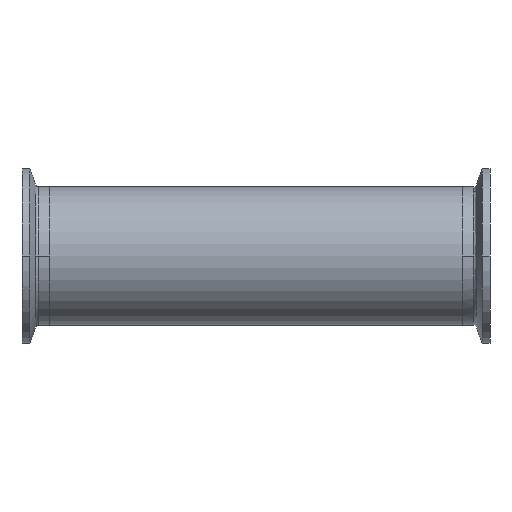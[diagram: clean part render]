
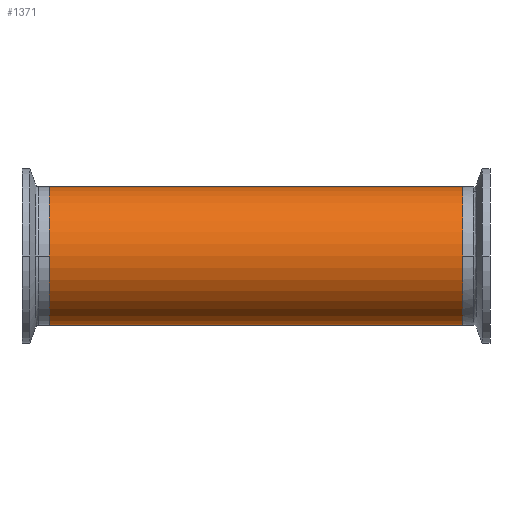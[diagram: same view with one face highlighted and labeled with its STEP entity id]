
A CAD part, front view. The second image highlights one B-rep face of the part: STEP entity #1371.
In plain terms, the highlighted cylindrical face has radius 25.4 mm (diameter 50.8 mm), a partial arc.
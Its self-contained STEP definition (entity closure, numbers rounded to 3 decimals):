
#173 = LINE ( 'NONE', #2235, #4034 ) ;
#187 = VERTEX_POINT ( 'NONE', #2556 ) ;
#228 = CIRCLE ( 'NONE', #3640, 25.4 ) ;
#242 = ORIENTED_EDGE ( 'NONE', *, *, #3683, .F. ) ;
#297 = VERTEX_POINT ( 'NONE', #2084 ) ;
#632 = CIRCLE ( 'NONE', #3679, 25.4 ) ;
#945 = FACE_OUTER_BOUND ( 'NONE', #2282, .T. ) ;
#989 = AXIS2_PLACEMENT_3D ( 'NONE', #1261, #1279, #1345 ) ;
#1035 = CARTESIAN_POINT ( 'NONE',  ( -75.7, 0., 0. ) ) ;
#1261 = CARTESIAN_POINT ( 'NONE',  ( 147.542, 0., 0. ) ) ;
#1279 = DIRECTION ( 'NONE',  ( -1., 0., 0. ) ) ;
#1345 = DIRECTION ( 'NONE',  ( 0., 0., 1. ) ) ;
#1357 = DIRECTION ( 'NONE',  ( 0., 0., 1. ) ) ;
#1371 = ADVANCED_FACE ( 'NONE', ( #945 ), #1593, .T. ) ;
#1388 = VERTEX_POINT ( 'NONE', #3497 ) ;
#1411 = LINE ( 'NONE', #3678, #3857 ) ;
#1438 = EDGE_CURVE ( 'NONE', #1664, #187, #173, .T. ) ;
#1446 = EDGE_CURVE ( 'NONE', #1388, #1664, #632, .T. ) ;
#1593 = CYLINDRICAL_SURFACE ( 'NONE', #989, 25.4 ) ;
#1664 = VERTEX_POINT ( 'NONE', #3192 ) ;
#1748 = DIRECTION ( 'NONE',  ( -1., 0., 0. ) ) ;
#1958 = ORIENTED_EDGE ( 'NONE', *, *, #1438, .T. ) ;
#2084 = CARTESIAN_POINT ( 'NONE',  ( -75.7, 0., -25.4 ) ) ;
#2235 = CARTESIAN_POINT ( 'NONE',  ( 147.542, 0., 25.4 ) ) ;
#2282 = EDGE_LOOP ( 'NONE', ( #242, #3094, #1958, #3259 ) ) ;
#2284 = DIRECTION ( 'NONE',  ( 0., 0., 1. ) ) ;
#2309 = CARTESIAN_POINT ( 'NONE',  ( 75.7, 0., 0. ) ) ;
#2545 = DIRECTION ( 'NONE',  ( -1., 0., 0. ) ) ;
#2556 = CARTESIAN_POINT ( 'NONE',  ( -75.7, 0., 25.4 ) ) ;
#2859 = DIRECTION ( 'NONE',  ( -1., 0., 0. ) ) ;
#3094 = ORIENTED_EDGE ( 'NONE', *, *, #1446, .T. ) ;
#3192 = CARTESIAN_POINT ( 'NONE',  ( 75.7, 0., 25.4 ) ) ;
#3259 = ORIENTED_EDGE ( 'NONE', *, *, #3886, .T. ) ;
#3300 = DIRECTION ( 'NONE',  ( 1., 0., 0. ) ) ;
#3497 = CARTESIAN_POINT ( 'NONE',  ( 75.7, 0., -25.4 ) ) ;
#3640 = AXIS2_PLACEMENT_3D ( 'NONE', #1035, #3300, #1357 ) ;
#3678 = CARTESIAN_POINT ( 'NONE',  ( 147.542, 0., -25.4 ) ) ;
#3679 = AXIS2_PLACEMENT_3D ( 'NONE', #2309, #2859, #2284 ) ;
#3683 = EDGE_CURVE ( 'NONE', #1388, #297, #1411, .T. ) ;
#3857 = VECTOR ( 'NONE', #1748, 1000. ) ;
#3886 = EDGE_CURVE ( 'NONE', #187, #297, #228, .T. ) ;
#4034 = VECTOR ( 'NONE', #2545, 1000. ) ;
